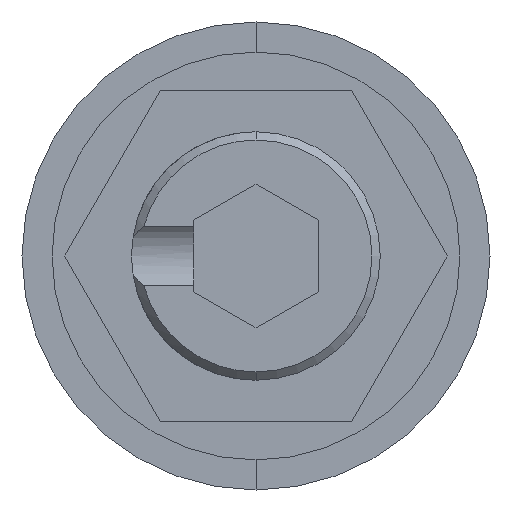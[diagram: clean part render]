
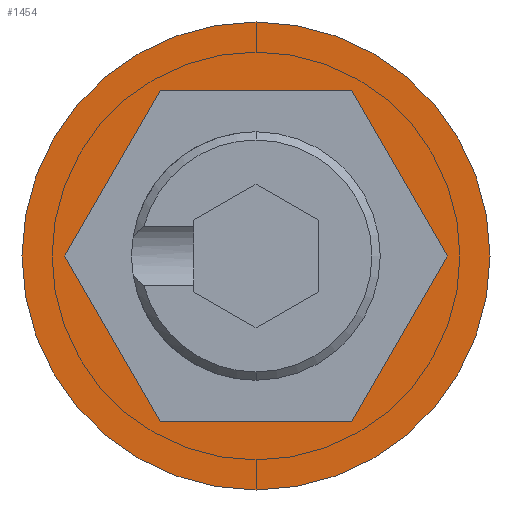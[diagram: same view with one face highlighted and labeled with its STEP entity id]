
A CAD part, front view. The second image highlights one B-rep face of the part: STEP entity #1454.
In plain terms, the highlighted planar face has unit normal (0, -1, 0).
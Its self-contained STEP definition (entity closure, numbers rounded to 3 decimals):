
#35 = EDGE_CURVE ( 'NONE', #798, #900, #499, .T. ) ;
#60 = VECTOR ( 'NONE', #1398, 1000. ) ;
#68 = LINE ( 'NONE', #1399, #60 ) ;
#71 = VECTOR ( 'NONE', #1293, 1000. ) ;
#73 = LINE ( 'NONE', #1290, #71 ) ;
#78 = CARTESIAN_POINT ( 'NONE',  ( 2.309, 0., 4. ) ) ;
#82 = CARTESIAN_POINT ( 'NONE',  ( 2.309, 0., -4. ) ) ;
#134 = EDGE_CURVE ( 'NONE', #1166, #1603, #433, .T. ) ;
#139 = VECTOR ( 'NONE', #965, 1000. ) ;
#144 = LINE ( 'NONE', #964, #139 ) ;
#282 = EDGE_CURVE ( 'NONE', #1373, #1315, #366, .T. ) ;
#348 = VECTOR ( 'NONE', #382, 1000. ) ;
#366 = LINE ( 'NONE', #405, #348 ) ;
#381 = CARTESIAN_POINT ( 'NONE',  ( -2.309, 0., -4. ) ) ;
#382 = DIRECTION ( 'NONE',  ( -0.5, 0., 0.866 ) ) ;
#405 = CARTESIAN_POINT ( 'NONE',  ( 4.619, 0., 0. ) ) ;
#429 = VECTOR ( 'NONE', #1828, 1000. ) ;
#433 = LINE ( 'NONE', #381, #429 ) ;
#499 = CIRCLE ( 'NONE', #1718, 5.65 ) ;
#650 = EDGE_CURVE ( 'NONE', #926, #1166, #144, .T. ) ;
#772 = LINE ( 'NONE', #78, #2103 ) ;
#798 = VERTEX_POINT ( 'NONE', #1237 ) ;
#818 = EDGE_CURVE ( 'NONE', #1603, #1373, #73, .T. ) ;
#856 = VERTEX_POINT ( 'NONE', #1354 ) ;
#872 = EDGE_CURVE ( 'NONE', #856, #926, #68, .T. ) ;
#899 = DIRECTION ( 'NONE',  ( 0., 0., -1. ) ) ;
#900 = VERTEX_POINT ( 'NONE', #1422 ) ;
#926 = VERTEX_POINT ( 'NONE', #1443 ) ;
#964 = CARTESIAN_POINT ( 'NONE',  ( -4.619, 0., 0. ) ) ;
#965 = DIRECTION ( 'NONE',  ( 0.5, 0., -0.866 ) ) ;
#972 = EDGE_CURVE ( 'NONE', #1315, #856, #772, .T. ) ;
#985 = EDGE_CURVE ( 'NONE', #900, #798, #2074, .T. ) ;
#1027 = AXIS2_PLACEMENT_3D ( 'NONE', #1971, #1982, #1989 ) ;
#1157 = DIRECTION ( 'NONE',  ( 0., -1., 0. ) ) ;
#1166 = VERTEX_POINT ( 'NONE', #1719 ) ;
#1219 = CARTESIAN_POINT ( 'NONE',  ( 0., 0., 0. ) ) ;
#1237 = CARTESIAN_POINT ( 'NONE',  ( 0., 0., 5.65 ) ) ;
#1290 = CARTESIAN_POINT ( 'NONE',  ( 2.309, 0., -4. ) ) ;
#1293 = DIRECTION ( 'NONE',  ( 0.5, 0., 0.866 ) ) ;
#1315 = VERTEX_POINT ( 'NONE', #1855 ) ;
#1354 = CARTESIAN_POINT ( 'NONE',  ( -2.309, 0., 4. ) ) ;
#1373 = VERTEX_POINT ( 'NONE', #1911 ) ;
#1398 = DIRECTION ( 'NONE',  ( -0.5, 0., -0.866 ) ) ;
#1399 = CARTESIAN_POINT ( 'NONE',  ( -2.309, 0., 4. ) ) ;
#1408 = ORIENTED_EDGE ( 'NONE', *, *, #35, .T. ) ;
#1410 = ORIENTED_EDGE ( 'NONE', *, *, #985, .T. ) ;
#1412 = ORIENTED_EDGE ( 'NONE', *, *, #818, .F. ) ;
#1418 = ORIENTED_EDGE ( 'NONE', *, *, #282, .F. ) ;
#1422 = CARTESIAN_POINT ( 'NONE',  ( 0., 0., -5.65 ) ) ;
#1423 = ORIENTED_EDGE ( 'NONE', *, *, #972, .F. ) ;
#1427 = ORIENTED_EDGE ( 'NONE', *, *, #872, .F. ) ;
#1436 = ORIENTED_EDGE ( 'NONE', *, *, #650, .F. ) ;
#1442 = ORIENTED_EDGE ( 'NONE', *, *, #134, .F. ) ;
#1443 = CARTESIAN_POINT ( 'NONE',  ( -4.619, 0., 0. ) ) ;
#1454 = ADVANCED_FACE ( 'NONE', ( #1657, #1685 ), #1978, .T. ) ;
#1500 = AXIS2_PLACEMENT_3D ( 'NONE', #1903, #1908, #1925 ) ;
#1513 = DIRECTION ( 'NONE',  ( -1., 0., 0. ) ) ;
#1603 = VERTEX_POINT ( 'NONE', #82 ) ;
#1657 = FACE_BOUND ( 'NONE', #2071, .T. ) ;
#1685 = FACE_OUTER_BOUND ( 'NONE', #1968, .T. ) ;
#1718 = AXIS2_PLACEMENT_3D ( 'NONE', #1219, #1157, #899 ) ;
#1719 = CARTESIAN_POINT ( 'NONE',  ( -2.309, 0., -4. ) ) ;
#1828 = DIRECTION ( 'NONE',  ( 1., 0., 0. ) ) ;
#1855 = CARTESIAN_POINT ( 'NONE',  ( 2.309, 0., 4. ) ) ;
#1903 = CARTESIAN_POINT ( 'NONE',  ( 0., 0., 0. ) ) ;
#1908 = DIRECTION ( 'NONE',  ( 0., -1., 0. ) ) ;
#1911 = CARTESIAN_POINT ( 'NONE',  ( 4.619, 0., 0. ) ) ;
#1925 = DIRECTION ( 'NONE',  ( 0., 0., -1. ) ) ;
#1968 = EDGE_LOOP ( 'NONE', ( #1410, #1408 ) ) ;
#1971 = CARTESIAN_POINT ( 'NONE',  ( 0., 0., 0. ) ) ;
#1978 = PLANE ( 'NONE',  #1027 ) ;
#1982 = DIRECTION ( 'NONE',  ( 0., -1., 0. ) ) ;
#1989 = DIRECTION ( 'NONE',  ( 0., 0., -1. ) ) ;
#2071 = EDGE_LOOP ( 'NONE', ( #1442, #1436, #1427, #1423, #1418, #1412 ) ) ;
#2074 = CIRCLE ( 'NONE', #1500, 5.65 ) ;
#2103 = VECTOR ( 'NONE', #1513, 1000. ) ;
